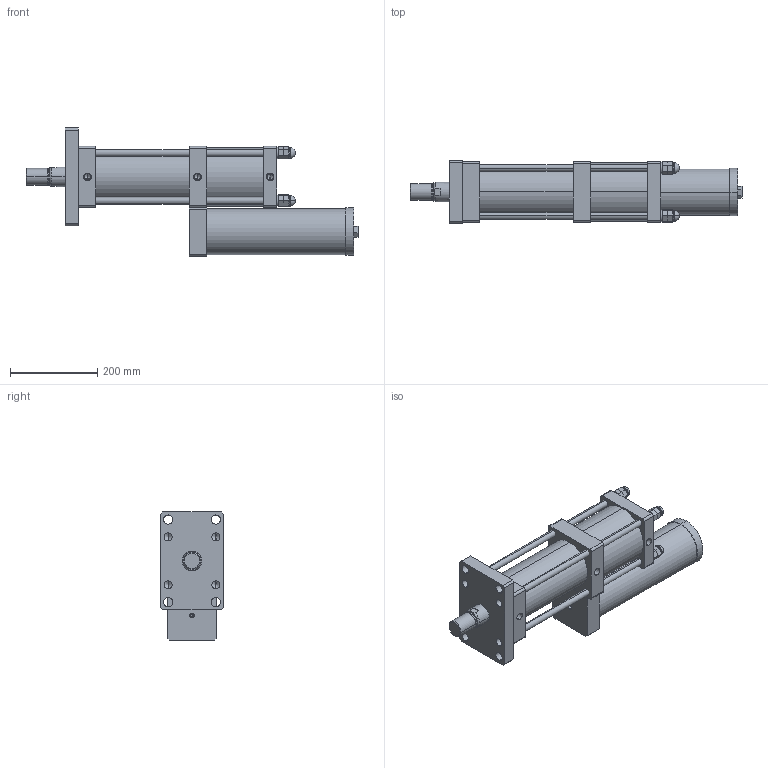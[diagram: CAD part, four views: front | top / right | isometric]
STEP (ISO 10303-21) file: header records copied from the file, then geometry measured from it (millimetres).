
FILE_DESCRIPTION (( 'STEP AP203' ), '1' );
FILE_NAME ('MPT-100-150-5-13T.STEP', '2016-03-28T10:19:51', ( 'WIN' ), ( '' ), 'SwSTEP 2.0', 'SolidWorks 2014', '' );
FILE_SCHEMA (( 'CONFIG_CONTROL_DESIGN' ));
Length unit declared in the file: millimetre
Products named in the file (1): MPT-100-150-5-13T
Bounding box: 763 x 145 x 294.5 mm (x, y, z)
Volume: 11043014.4 mm3; surface area: 712485.6 mm2
Topology: 13 solids, 13 shells, 400 faces, 980 edges, 555 vertices
Faces by surface type: plane 188, cylinder 80, torus 48, bspline 48, cone 36
Entity records: 12751 total; most frequent: CARTESIAN_POINT 3688, DIRECTION 1936, ORIENTED_EDGE 1812, EDGE_CURVE 906, AXIS2_PLACEMENT_3D 727, VERTEX_POINT 555, LINE 482, VECTOR 482
